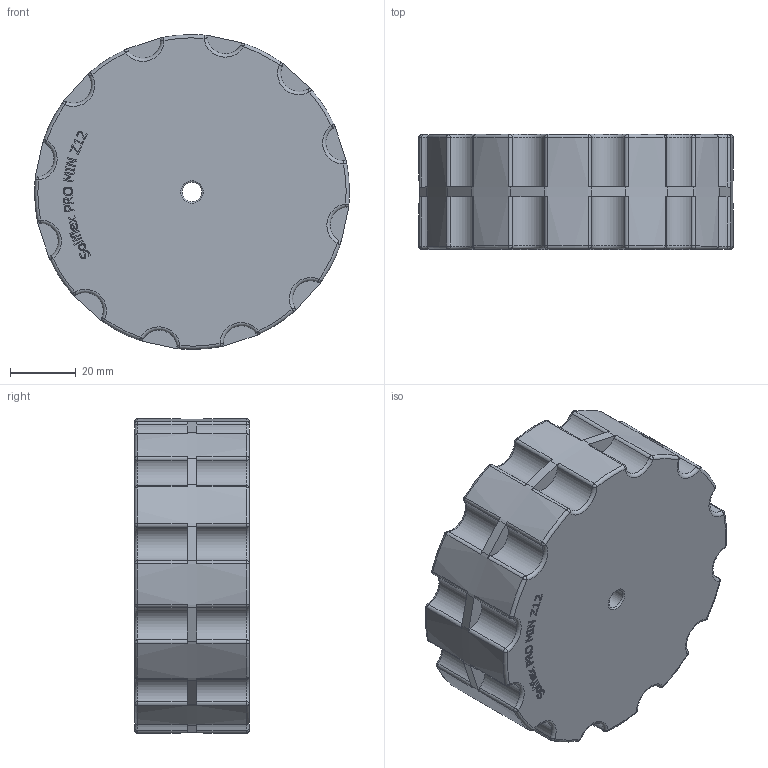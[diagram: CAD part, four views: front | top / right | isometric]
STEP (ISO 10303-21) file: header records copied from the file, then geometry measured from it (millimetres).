
FILE_DESCRIPTION(/* description */ ('Unknown'),/* implementation_level */ '2;1');
FILE_NAME(/* name */ 'GEN0001-D249 MIN Z12 D095.9 PB06 BLUE',/* time_stamp */ '2018-01-31T16:40:20+01:00',/* author */ ('Unknown'),/* organization */ ('Unknown'),/* preprocessor_version */ 'ST-DEVELOPER v16.7',/* originating_system */ 'DEX',/* authorisation */ $);
FILE_SCHEMA (('AUTOMOTIVE_DESIGN {1 0 10303 214 3 1 1}'));
Length unit declared in the file: millimetre
Products named in the file (1): GEN0001-D249 MIN Z12 D095.9 PB06 BLUE
Bounding box: 95.9 x 35 x 95.9 mm (x, y, z)
Volume: 236580.2 mm3; surface area: 26716.6 mm2
Topology: 1 solids, 1 shells, 386 faces, 985 edges, 576 vertices
Faces by surface type: plane 181, cylinder 85, torus 50, sphere 48, bspline 22
Full cylindrical faces by diameter (mm): 6 x1
Entity records: 12424 total; most frequent: CARTESIAN_POINT 3255, DIRECTION 1980, ORIENTED_EDGE 1860, EDGE_CURVE 930, AXIS2_PLACEMENT_3D 729, VERTEX_POINT 576, LINE 522, VECTOR 522
